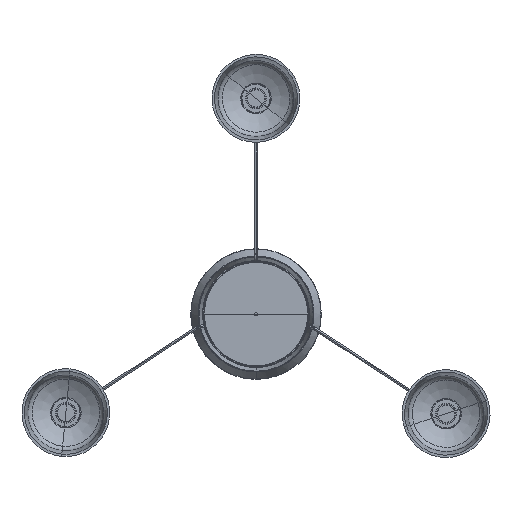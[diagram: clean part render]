
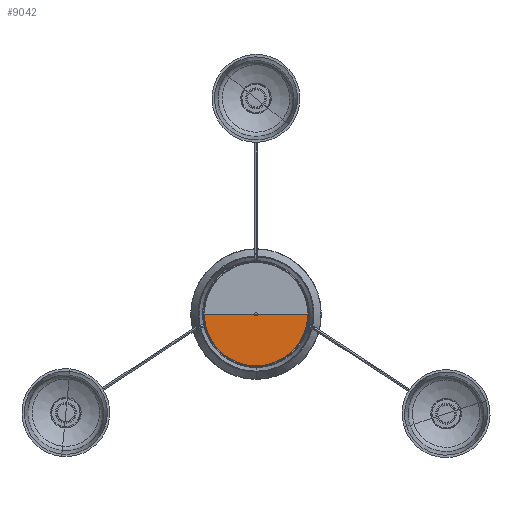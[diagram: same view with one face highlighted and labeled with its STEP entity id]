
A CAD part, top view. The second image highlights one B-rep face of the part: STEP entity #9042.
In plain terms, the highlighted planar face has unit normal (0, 0, 1).
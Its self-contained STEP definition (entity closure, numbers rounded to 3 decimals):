
#1323=FACE_OUTER_BOUND('',#1900,.T.);
#1900=EDGE_LOOP('',(#7571,#7572));
#2466=LINE('',#19639,#2973);
#2973=VECTOR('',#12077,304.8);
#3419=CIRCLE('',#9936,108.233);
#4114=VERTEX_POINT('',#19636);
#4115=VERTEX_POINT('',#19637);
#5316=EDGE_CURVE('',#4114,#4115,#3419,.T.);
#5317=EDGE_CURVE('',#4115,#4114,#2466,.T.);
#7571=ORIENTED_EDGE('',*,*,#5316,.F.);
#7572=ORIENTED_EDGE('',*,*,#5317,.F.);
#8579=PLANE('',#9935);
#9042=ADVANCED_FACE('',(#1323),#8579,.T.);
#9935=AXIS2_PLACEMENT_3D('',#19635,#12073,#12074);
#9936=AXIS2_PLACEMENT_3D('',#19638,#12075,#12076);
#12073=DIRECTION('center_axis',(0.,0.,1.));
#12074=DIRECTION('ref_axis',(1.,0.,0.));
#12075=DIRECTION('center_axis',(0.,0.,-1.));
#12076=DIRECTION('ref_axis',(0.809,0.588,0.));
#12077=DIRECTION('',(1.,0.,0.));
#19635=CARTESIAN_POINT('Origin',(0.,0.,
23.91));
#19636=CARTESIAN_POINT('',(108.233,0.,23.91));
#19637=CARTESIAN_POINT('',(-108.233,0.,23.91));
#19638=CARTESIAN_POINT('Origin',(0.,0.,
23.91));
#19639=CARTESIAN_POINT('',(3.,0.,23.91));
